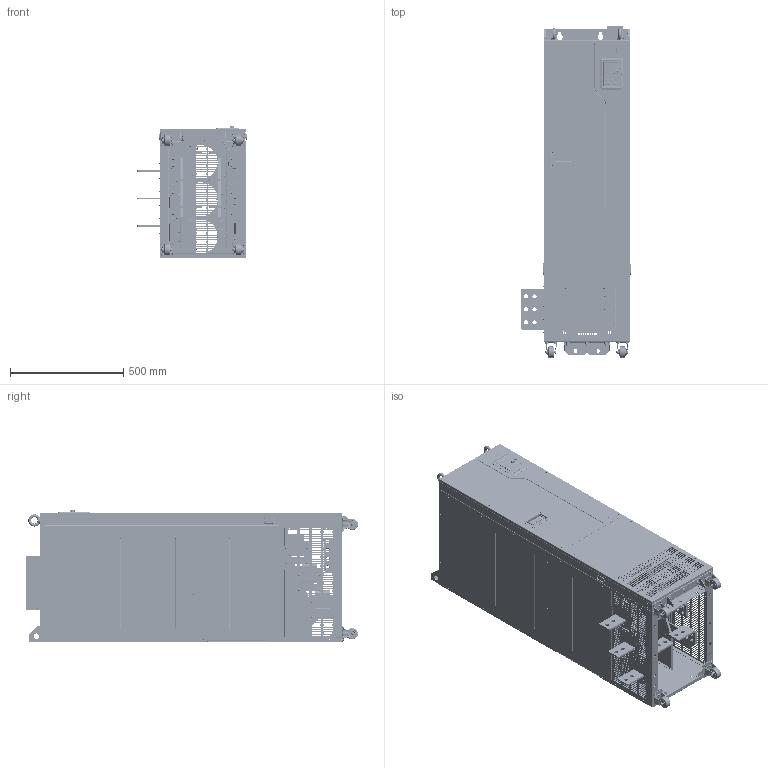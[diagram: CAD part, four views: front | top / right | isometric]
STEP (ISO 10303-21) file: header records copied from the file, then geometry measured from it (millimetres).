
FILE_DESCRIPTION((''),'2;1');
FILE_NAME('GD270-630-4_ASM_1_ASM','2025-05-15T18:31:29',('Administrator'),(''),'CREO PARAMETRIC BY PTC INC, 2019080','CREO PARAMETRIC BY PTC INC, 2019080','');
FILE_SCHEMA(('CONFIG_CONTROL_DESIGN'));
Products named in the file (214): 30001-00009_YONGLI_1; FAN_GUARD_92X92_1_1; FAN_GUARD_92X92_1_2; FAN_GUARD_92X92_1_3; FAN_GUARD_92X92_1_4; FAN_GUARD_92X92_1_5; FAN_GUARD_92X92_1_6; FAN_GUARD_92X92_1_ASM; INVT8_034_0058__1; INVT8_034_0059__1; INVT8_034_0060__1; 86410001_1; INVT8_034_0064__1; 11022-00090_ASM_1_ASM; 17003-03893-3D_E_1; E-MJ0204-100TH_1; E-DIN0209-5_08MM-10_16MM-TMB_1; E-DIN0203-5_08MM-TA_1; E-DIN0103-5MM-TMA_1; E-MJ0204-RA_1; E-IDC34-ORM1_1; 17003-03893-3D_E_ASM_1_ASM; 17003-03989_3D-A_1; E-JK4-40_5X14_7_1; E-JK4-8_5X11_5_1; 17003-03989_3D-A_ASM_1_ASM; 77571642_1; NZ-M8-ZC_1; 77571642_ASM_1_ASM; 77571641_1; 77571641_ASM_1_ASM; 77571643_1; 77571643_ASM_1_ASM; GD270-630-4-ES_ASM_1_ASM; 80311095_1; S-M4-ZC_1; S-M5-ZC_1; S-M6-ZC_1; TPR-4-12-SL_1; BSO-M4-12-ZC_1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
Assembly tree (872 placements, depth 8):
  GD270-630-4_ASM_1_ASM
    GD270-630-4-ES_ASM_1_ASM
      30001-00009_YONGLI_1
      FAN_GUARD_92X92_1_ASM
        FAN_GUARD_92X92_1_1
        FAN_GUARD_92X92_1_2
        FAN_GUARD_92X92_1_3
        FAN_GUARD_92X92_1_4
        FAN_GUARD_92X92_1_5
        FAN_GUARD_92X92_1_6
      11022-00090_ASM_1_ASM
        INVT8_034_0058__1
        INVT8_034_0059__1
        INVT8_034_0060__1
        86410001_1
        INVT8_034_0064__1
      17003-03893-3D_E_ASM_1_ASM
        17003-03893-3D_E_1
        E-MJ0204-100TH_1
        E-DIN0209-5_08MM-10_16MM-TMB_1
        E-DIN0203-5_08MM-TA_1
        E-DIN0103-5MM-TMA_1
        E-MJ0204-RA_1
        E-IDC34-ORM1_1
      17003-03989_3D-A_ASM_1_ASM
        17003-03989_3D-A_1
        E-JK4-40_5X14_7_1
        E-JK4-8_5X11_5_1  x2
      77571642_ASM_1_ASM
        77571642_1
        NZ-M8-ZC_1  x4
      77571641_ASM_1_ASM
        77571641_1
        NZ-M8-ZC_1  x4
      77571643_ASM_1_ASM
        77571643_1
        NZ-M8-ZC_1  x4
    40802423_ASM_1_ASM
      61063413_ASM_1_ASM
        61210929_ASM_1_ASM
          80311095_ASM_1_ASM
            80311095_1
            S-M4-ZC_1  x17
            S-M5-ZC_1  x4
            S-M6-ZC_1  x3
            TPR-4-12-SL_1  x2
            BSO-M4-12-ZC_1  x3
          80487423_ASM_1_ASM
            80487423_1
          GB12617_2_4X10_ZC_1  x11
        61063416_ASM_1_ASM
          80487416SY_ASM_1_ASM
            80487416_ASM_1_ASM
              80487416_1
              S-M4-ZC_1  x19
              S-M5-ZC_1  x4
              S-M6-ZC_1  x12
              SO-3D5M3-10-ZC_1  x4
              SO-M4-10-ZC_1  x15
              BS-M6-20-SL_1  x2
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Bounding box: 482 x 1463 x 582.11 mm (x, y, z)
Volume: 11283552.3 mm3; surface area: 11881961.5 mm2
Topology: 880 solids, 908 shells, 46081 faces, 120789 edges, 77921 vertices
Faces by surface type: plane 28584, cylinder 10072, cone 5136, torus 1076, sphere 728, bspline 438, extrusion 47
Entity records: 492820 total; most frequent: CARTESIAN_POINT 103619, DIRECTION 82609, ORIENTED_EDGE 78022, EDGE_CURVE 39045, AXIS2_PLACEMENT_3D 28843, VERTEX_POINT 25127, VECTOR 24923, LINE 24876
